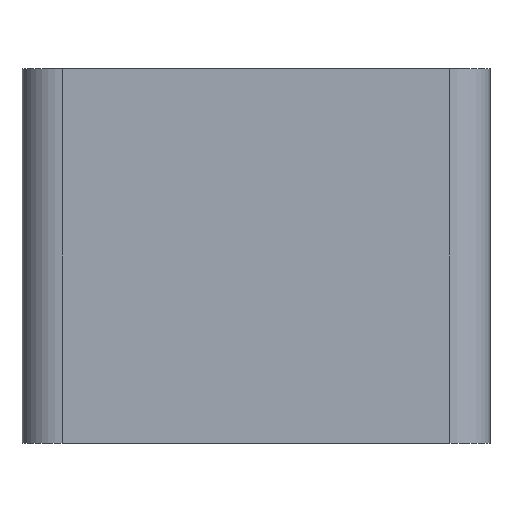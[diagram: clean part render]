
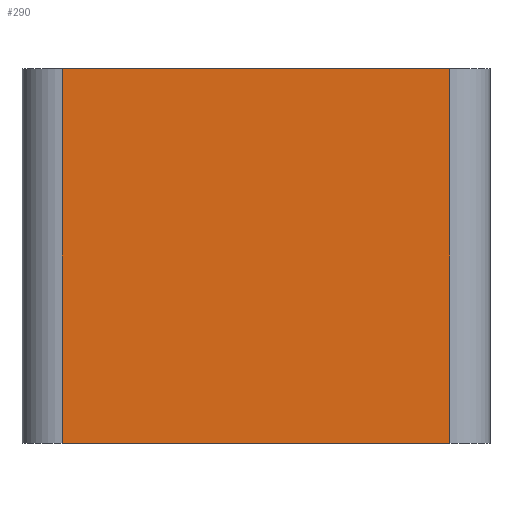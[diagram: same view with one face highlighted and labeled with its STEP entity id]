
A CAD part, front view. The second image highlights one B-rep face of the part: STEP entity #290.
In plain terms, the highlighted planar face has unit normal (0, -1, 0).
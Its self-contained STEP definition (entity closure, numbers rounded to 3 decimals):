
#168=FACE_OUTER_BOUND('',#1135,.T.);
#290=ADVANCED_FACE('',(#168),#441,.T.);
#441=PLANE('',#2702);
#540=LINE('',#3985,#667);
#541=LINE('',#3989,#668);
#542=LINE('',#3992,#669);
#543=LINE('',#3993,#670);
#667=VECTOR('',#2878,1.);
#668=VECTOR('',#2883,1.);
#669=VECTOR('',#2884,1.);
#670=VECTOR('',#2885,1.);
#1135=EDGE_LOOP('',(#1418,#1419,#1420,#1421));
#1418=ORIENTED_EDGE('',*,*,#2392,.T.);
#1419=ORIENTED_EDGE('',*,*,#2393,.T.);
#1420=ORIENTED_EDGE('',*,*,#2390,.T.);
#1421=ORIENTED_EDGE('',*,*,#2394,.T.);
#2138=VERTEX_POINT('',#3984);
#2139=VERTEX_POINT('',#3986);
#2140=VERTEX_POINT('',#3990);
#2141=VERTEX_POINT('',#3991);
#2390=EDGE_CURVE('',#2139,#2138,#540,.T.);
#2392=EDGE_CURVE('',#2140,#2141,#541,.T.);
#2393=EDGE_CURVE('',#2141,#2139,#542,.T.);
#2394=EDGE_CURVE('',#2138,#2140,#543,.T.);
#2702=AXIS2_PLACEMENT_3D('',#3994,#2886,#2887);
#2878=DIRECTION('',(-1.,0.,0.));
#2883=DIRECTION('',(1.,0.,0.));
#2884=DIRECTION('',(0.,0.,1.));
#2885=DIRECTION('',(0.,0.,-1.));
#2886=DIRECTION('',(0.,-1.,0.));
#2887=DIRECTION('',(0.,0.,-1.));
#3984=CARTESIAN_POINT('',(3.,0.,28.));
#3985=CARTESIAN_POINT('',(17.5,0.,28.));
#3986=CARTESIAN_POINT('',(32.,0.,28.));
#3989=CARTESIAN_POINT('',(17.5,0.,0.));
#3990=CARTESIAN_POINT('',(3.,0.,0.));
#3991=CARTESIAN_POINT('',(32.,0.,0.));
#3992=CARTESIAN_POINT('',(32.,0.,0.));
#3993=CARTESIAN_POINT('',(3.,0.,0.));
#3994=CARTESIAN_POINT('',(17.5,0.,0.));
